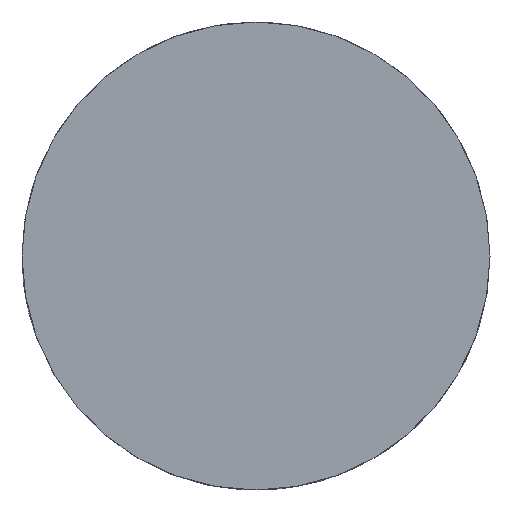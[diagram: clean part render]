
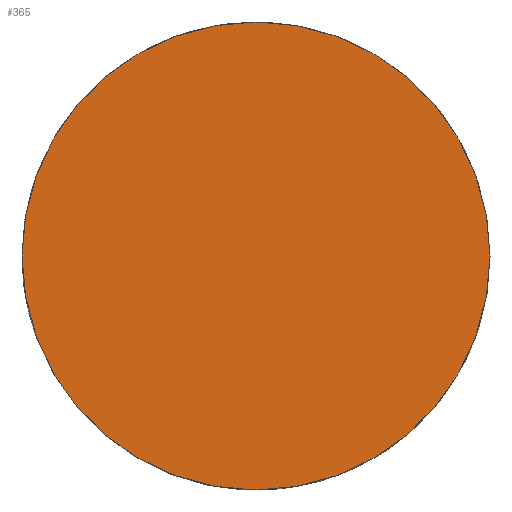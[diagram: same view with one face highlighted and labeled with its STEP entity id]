
A CAD part, top view. The second image highlights one B-rep face of the part: STEP entity #365.
In plain terms, the highlighted planar face has unit normal (0, 0, 1).
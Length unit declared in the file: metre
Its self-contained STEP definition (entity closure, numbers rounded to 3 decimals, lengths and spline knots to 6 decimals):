
#121 = DIRECTION ( 'NONE',  ( 0., 0., 1. ) ) ;
#152 = DIRECTION ( 'NONE',  ( 0., 0., 1. ) ) ;
#260 = EDGE_CURVE ( 'NONE', #622, #491, #905, .T. ) ;
#273 = FACE_OUTER_BOUND ( 'NONE', #402, .T. ) ;
#282 = CARTESIAN_POINT ( 'NONE',  ( 0., 0., 0. ) ) ;
#288 = AXIS2_PLACEMENT_3D ( 'NONE', #746, #152, #656 ) ;
#356 = CARTESIAN_POINT ( 'NONE',  ( -0.01771, -0.01771, 0. ) ) ;
#365 = ADVANCED_FACE ( 'NONE', ( #273 ), #867, .T. ) ;
#402 = EDGE_LOOP ( 'NONE', ( #922, #854 ) ) ;
#481 = CARTESIAN_POINT ( 'NONE',  ( 0.0175, 0., 0. ) ) ;
#491 = VERTEX_POINT ( 'NONE', #481 ) ;
#622 = VERTEX_POINT ( 'NONE', #972 ) ;
#656 = DIRECTION ( 'NONE',  ( 1., 0., 0. ) ) ;
#710 = DIRECTION ( 'NONE',  ( 1., 0., 0. ) ) ;
#746 = CARTESIAN_POINT ( 'NONE',  ( 0., 0., 0. ) ) ;
#799 = DIRECTION ( 'NONE',  ( 0., 0., 1. ) ) ;
#833 = EDGE_CURVE ( 'NONE', #491, #622, #1030, .T. ) ;
#854 = ORIENTED_EDGE ( 'NONE', *, *, #260, .T. ) ;
#867 = PLANE ( 'NONE',  #1026 ) ;
#905 = CIRCLE ( 'NONE', #1055, 0.0175 ) ;
#922 = ORIENTED_EDGE ( 'NONE', *, *, #833, .T. ) ;
#963 = DIRECTION ( 'NONE',  ( 1., 0., 0. ) ) ;
#972 = CARTESIAN_POINT ( 'NONE',  ( -0.0175, 0., 0. ) ) ;
#1026 = AXIS2_PLACEMENT_3D ( 'NONE', #356, #799, #963 ) ;
#1030 = CIRCLE ( 'NONE', #288, 0.0175 ) ;
#1055 = AXIS2_PLACEMENT_3D ( 'NONE', #282, #121, #710 ) ;
